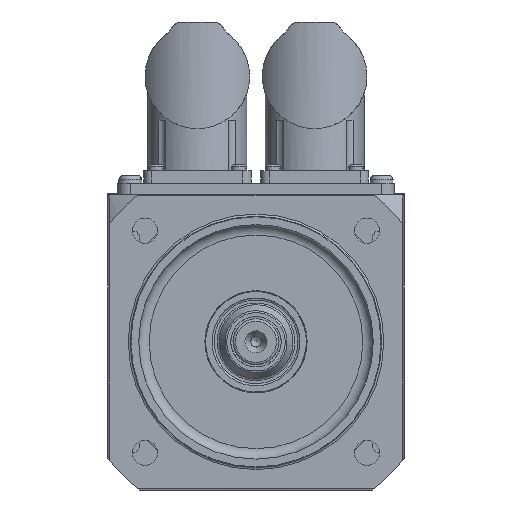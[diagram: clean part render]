
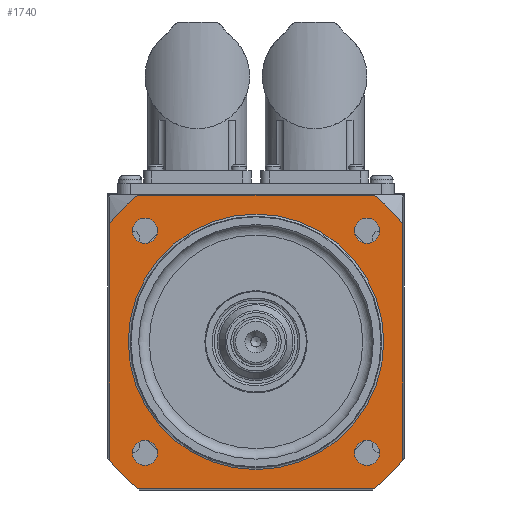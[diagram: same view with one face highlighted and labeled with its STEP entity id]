
A CAD part, front view. The second image highlights one B-rep face of the part: STEP entity #1740.
In plain terms, the highlighted planar face has unit normal (0, -1, 0).
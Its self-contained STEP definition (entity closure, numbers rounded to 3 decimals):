
#1740=ADVANCED_FACE('',(#4890,#2817,#4891,#4892,#4893,#4894),#2613,.T.);
#2613=PLANE('',#15241);
#2817=FACE_OUTER_BOUND('',#5427,.T.);
#3558=LINE('',#21405,#4225);
#3559=LINE('',#21409,#4226);
#3560=LINE('',#21413,#4227);
#3561=LINE('',#21417,#4228);
#4225=VECTOR('',#17111,1.);
#4226=VECTOR('',#17114,1.);
#4227=VECTOR('',#17117,1.);
#4228=VECTOR('',#17120,1.);
#4890=FACE_BOUND('',#5426,.T.);
#4891=FACE_BOUND('',#5428,.T.);
#4892=FACE_BOUND('',#5429,.T.);
#4893=FACE_BOUND('',#5430,.T.);
#4894=FACE_BOUND('',#5431,.T.);
#5426=EDGE_LOOP('',(#6722));
#5427=EDGE_LOOP('',(#6723,#6724,#6725,#6726,#6727,#6728,#6729,#6730));
#5428=EDGE_LOOP('',(#6731));
#5429=EDGE_LOOP('',(#6732));
#5430=EDGE_LOOP('',(#6733));
#5431=EDGE_LOOP('',(#6734));
#6722=ORIENTED_EDGE('',*,*,#12289,.T.);
#6723=ORIENTED_EDGE('',*,*,#12290,.T.);
#6724=ORIENTED_EDGE('',*,*,#12291,.T.);
#6725=ORIENTED_EDGE('',*,*,#12292,.T.);
#6726=ORIENTED_EDGE('',*,*,#12293,.T.);
#6727=ORIENTED_EDGE('',*,*,#12294,.T.);
#6728=ORIENTED_EDGE('',*,*,#12295,.T.);
#6729=ORIENTED_EDGE('',*,*,#12296,.T.);
#6730=ORIENTED_EDGE('',*,*,#12297,.F.);
#6731=ORIENTED_EDGE('',*,*,#12298,.T.);
#6732=ORIENTED_EDGE('',*,*,#12299,.T.);
#6733=ORIENTED_EDGE('',*,*,#12300,.T.);
#6734=ORIENTED_EDGE('',*,*,#12301,.T.);
#10814=VERTEX_POINT('',#21401);
#10815=VERTEX_POINT('',#21403);
#10816=VERTEX_POINT('',#21404);
#10817=VERTEX_POINT('',#21406);
#10818=VERTEX_POINT('',#21408);
#10819=VERTEX_POINT('',#21410);
#10820=VERTEX_POINT('',#21412);
#10821=VERTEX_POINT('',#21414);
#10822=VERTEX_POINT('',#21416);
#10823=VERTEX_POINT('',#21419);
#10824=VERTEX_POINT('',#21421);
#10825=VERTEX_POINT('',#21423);
#10826=VERTEX_POINT('',#21425);
#12289=EDGE_CURVE('',#10814,#10814,#14315,.T.);
#12290=EDGE_CURVE('',#10815,#10816,#14316,.T.);
#12291=EDGE_CURVE('',#10816,#10817,#3558,.T.);
#12292=EDGE_CURVE('',#10817,#10818,#14317,.T.);
#12293=EDGE_CURVE('',#10818,#10819,#3559,.T.);
#12294=EDGE_CURVE('',#10819,#10820,#14318,.T.);
#12295=EDGE_CURVE('',#10820,#10821,#3560,.T.);
#12296=EDGE_CURVE('',#10821,#10822,#14319,.T.);
#12297=EDGE_CURVE('',#10815,#10822,#3561,.T.);
#12298=EDGE_CURVE('',#10823,#10823,#14320,.T.);
#12299=EDGE_CURVE('',#10824,#10824,#14321,.T.);
#12300=EDGE_CURVE('',#10825,#10825,#14322,.T.);
#12301=EDGE_CURVE('',#10826,#10826,#14323,.T.);
#14315=CIRCLE('',#15232,30.5);
#14316=CIRCLE('',#15233,45.);
#14317=CIRCLE('',#15234,45.);
#14318=CIRCLE('',#15235,45.);
#14319=CIRCLE('',#15236,45.);
#14320=CIRCLE('',#15237,3.);
#14321=CIRCLE('',#15238,3.);
#14322=CIRCLE('',#15239,3.);
#14323=CIRCLE('',#15240,3.);
#15232=AXIS2_PLACEMENT_3D('',#21400,#17107,#17108);
#15233=AXIS2_PLACEMENT_3D('',#21402,#17109,#17110);
#15234=AXIS2_PLACEMENT_3D('',#21407,#17112,#17113);
#15235=AXIS2_PLACEMENT_3D('',#21411,#17115,#17116);
#15236=AXIS2_PLACEMENT_3D('',#21415,#17118,#17119);
#15237=AXIS2_PLACEMENT_3D('',#21418,#17121,#17122);
#15238=AXIS2_PLACEMENT_3D('',#21420,#17123,#17124);
#15239=AXIS2_PLACEMENT_3D('',#21422,#17125,#17126);
#15240=AXIS2_PLACEMENT_3D('',#21424,#17127,#17128);
#15241=AXIS2_PLACEMENT_3D('',#21426,#17129,#17130);
#17107=DIRECTION('',(0.,1.,0.));
#17108=DIRECTION('',(0.,0.,-1.));
#17109=DIRECTION('',(0.,-1.,0.));
#17110=DIRECTION('',(0.,0.,1.));
#17111=DIRECTION('',(1.,0.,0.));
#17112=DIRECTION('',(0.,-1.,0.));
#17113=DIRECTION('',(0.,0.,1.));
#17114=DIRECTION('',(0.,0.,1.));
#17115=DIRECTION('',(0.,-1.,0.));
#17116=DIRECTION('',(0.,0.,1.));
#17117=DIRECTION('',(-1.,0.,0.));
#17118=DIRECTION('',(0.,-1.,0.));
#17119=DIRECTION('',(0.,0.,1.));
#17120=DIRECTION('',(0.,0.,1.));
#17121=DIRECTION('',(0.,1.,0.));
#17122=DIRECTION('',(-1.,0.,0.));
#17123=DIRECTION('',(0.,1.,0.));
#17124=DIRECTION('',(0.,0.,-1.));
#17125=DIRECTION('',(0.,1.,0.));
#17126=DIRECTION('',(1.,0.,0.));
#17127=DIRECTION('',(0.,1.,0.));
#17128=DIRECTION('',(0.,0.,1.));
#17129=DIRECTION('',(0.,-1.,0.));
#17130=DIRECTION('',(0.,0.,-1.));
#21400=CARTESIAN_POINT('',(0.,-0.5,0.));
#21401=CARTESIAN_POINT('',(0.,-0.5,-30.5));
#21402=CARTESIAN_POINT('',(0.,-0.5,0.));
#21403=CARTESIAN_POINT('',(-35.,-0.5,-28.284));
#21404=CARTESIAN_POINT('',(-28.284,-0.5,-35.));
#21405=CARTESIAN_POINT('',(0.,-0.5,-35.));
#21406=CARTESIAN_POINT('',(28.284,-0.5,-35.));
#21407=CARTESIAN_POINT('',(0.,-0.5,0.));
#21408=CARTESIAN_POINT('',(35.,-0.5,-28.284));
#21409=CARTESIAN_POINT('',(35.,-0.5,-35.));
#21410=CARTESIAN_POINT('',(35.,-0.5,28.284));
#21411=CARTESIAN_POINT('',(0.,-0.5,0.));
#21412=CARTESIAN_POINT('',(28.284,-0.5,35.));
#21413=CARTESIAN_POINT('',(0.,-0.5,35.));
#21414=CARTESIAN_POINT('',(-28.284,-0.5,35.));
#21415=CARTESIAN_POINT('',(0.,-0.5,0.));
#21416=CARTESIAN_POINT('',(-35.,-0.5,28.284));
#21417=CARTESIAN_POINT('',(-35.,-0.5,-35.));
#21418=CARTESIAN_POINT('',(-26.517,-0.5,-26.517));
#21419=CARTESIAN_POINT('',(-29.517,-0.5,-26.517));
#21420=CARTESIAN_POINT('',(26.517,-0.5,-26.517));
#21421=CARTESIAN_POINT('',(26.517,-0.5,-29.517));
#21422=CARTESIAN_POINT('',(26.517,-0.5,26.517));
#21423=CARTESIAN_POINT('',(29.517,-0.5,26.517));
#21424=CARTESIAN_POINT('',(-26.517,-0.5,26.517));
#21425=CARTESIAN_POINT('',(-26.517,-0.5,29.517));
#21426=CARTESIAN_POINT('',(0.,-0.5,-35.));
